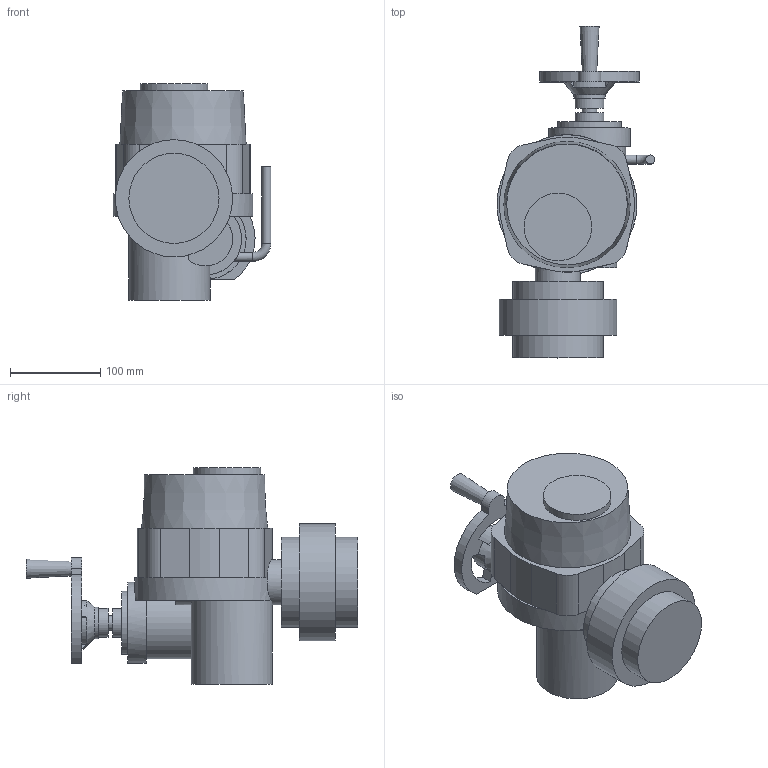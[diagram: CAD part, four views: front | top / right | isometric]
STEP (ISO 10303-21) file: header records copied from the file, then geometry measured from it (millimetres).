
FILE_DESCRIPTION(('STEP AP203'), '1');
FILE_NAME('Ýëåêòðîïðèâîä QT.A 005 ñ ïîçèöèîíåðîì', '', ('UNSPECIFIED'), ('UNSPECIFIED'), 'ASCON STEP Converter 1.6', 'ASCON Math Kernel', '');
FILE_SCHEMA(('CONFIG_CONTROL_DESIGN'));
Length unit declared in the file: millimetre
Bounding box: 175 x 368 x 240 mm (x, y, z)
Volume: 4557894.7 mm3; surface area: 246180.5 mm2
Topology: 1 solids, 1 shells, 102 faces, 243 edges, 158 vertices
Faces by surface type: plane 57, cylinder 41, cone 3, torus 1
Full cylindrical faces by diameter (mm): 6.7 x4, 10 x2, 16 x1, 20 x1, 32 x2, 35 x1, 50 x1, 70 x1, 75 x1, 90 x2, 100 x2, 130 x1
Entity records: 4370 total; most frequent: CARTESIAN_POINT 1153, DIRECTION 515, ORIENTED_EDGE 440, EDGE_CURVE 220, AXIS2_PLACEMENT_3D 206, VERTEX_POINT 158, EDGE_LOOP 146, FACE_BOUND 104
